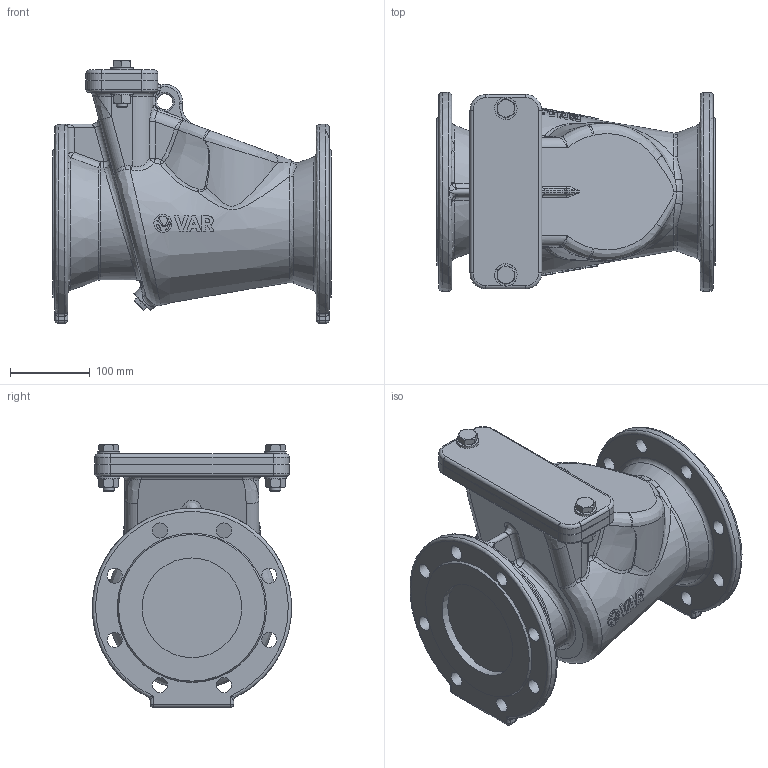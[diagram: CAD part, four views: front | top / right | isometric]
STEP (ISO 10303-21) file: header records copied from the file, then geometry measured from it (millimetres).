
FILE_DESCRIPTION(('STEP AP242'), '1');
FILE_NAME('VAR RETO-STOP 吾疣蝽 觌囡囗 DN 125 PN 16', '2026-06-28T08:25:34', (' '), (' '), 'C3D Converter', 'C3D Toolkit', '');
FILE_SCHEMA(('AP242_MANAGED_MODEL_BASED_3D_ENGINEERING_MIM_LF { 1 0 10303 442 1 1 4 }'));
Length unit declared in the file: millimetre
Products named in the file (1): Admi10D408D9fekh
Bounding box: 350 x 249.79 x 329.8 mm (x, y, z)
Volume: 11174142.2 mm3; surface area: 473039.4 mm2
Topology: 1 solids, 4 shells, 649 faces, 1624 edges, 986 vertices
Faces by surface type: plane 214, extrusion 130, cylinder 119, bspline 88, cone 49, torus 33, sphere 16
Full cylindrical faces by diameter (mm): 10 x1, 10.5 x1, 13.053 x2, 14 x2, 14.106 x2, 15 x4, 15.6 x1, 18 x1, 19 x16, 20 x4, 22.584 x1, 28 x4, 30 x1, 125 x2
Entity records: 48866 total; most frequent: CARTESIAN_POINT 30273, ORIENTED_EDGE 3050, DIRECTION 2212, EDGE_CURVE 1525, VERTEX_POINT 982, B_SPLINE_CURVE_WITH_KNOTS 812, AXIS2_PLACEMENT_3D 811, EDGE_LOOP 787
